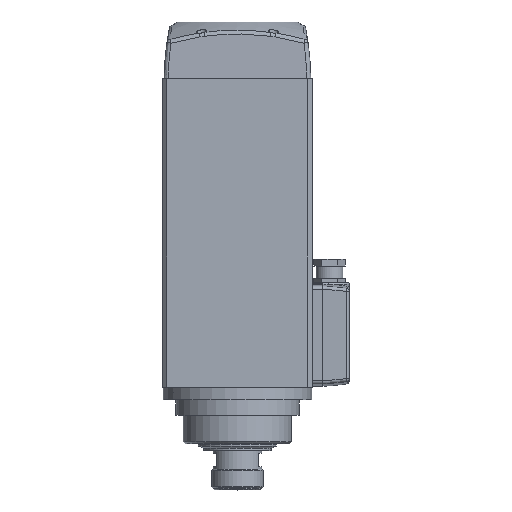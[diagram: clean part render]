
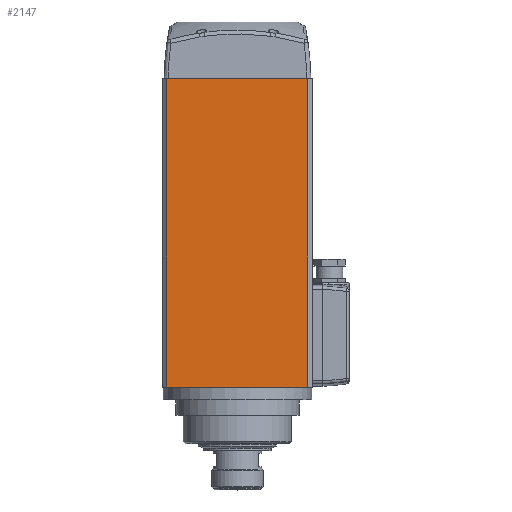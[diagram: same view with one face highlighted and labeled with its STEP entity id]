
A CAD part, top view. The second image highlights one B-rep face of the part: STEP entity #2147.
In plain terms, the highlighted planar face has unit normal (0, 0, 1).
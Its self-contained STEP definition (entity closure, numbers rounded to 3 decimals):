
#2147 = ADVANCED_FACE( '', ( #4596 ), #4597, .T. );
#4596 = FACE_OUTER_BOUND( '', #9696, .T. );
#4597 = PLANE( '', #9697 );
#9696 = EDGE_LOOP( '', ( #17231, #17232, #17233, #17234 ) );
#9697 = AXIS2_PLACEMENT_3D( '', #17235, #17236, #17237 );
#17231 = ORIENTED_EDGE( '', *, *, #23747, .F. );
#17232 = ORIENTED_EDGE( '', *, *, #23242, .T. );
#17233 = ORIENTED_EDGE( '', *, *, #21502, .T. );
#17234 = ORIENTED_EDGE( '', *, *, #23748, .T. );
#17235 = CARTESIAN_POINT( '', ( -68.5, 300., 88.5 ) );
#17236 = DIRECTION( '', ( 0., 0., 1. ) );
#17237 = DIRECTION( '', ( 1., 0., 0. ) );
#21502 = EDGE_CURVE( '', #27106, #27107, #27108, .T. );
#23242 = EDGE_CURVE( '', #29938, #27106, #29939, .T. );
#23747 = EDGE_CURVE( '', #29938, #30625, #30626, .T. );
#23748 = EDGE_CURVE( '', #27107, #30625, #30627, .T. );
#27106 = VERTEX_POINT( '', #32585 );
#27107 = VERTEX_POINT( '', #32586 );
#27108 = LINE( '', #32587, #32588 );
#29938 = VERTEX_POINT( '', #40019 );
#29939 = LINE( '', #40020, #40021 );
#30625 = VERTEX_POINT( '', #42237 );
#30626 = LINE( '', #42238, #42239 );
#30627 = LINE( '', #42240, #42241 );
#32585 = CARTESIAN_POINT( '', ( -68.5, 299.8, 88.5 ) );
#32586 = CARTESIAN_POINT( '', ( -68.5, 0.2, 88.5 ) );
#32587 = CARTESIAN_POINT( '', ( -68.5, 300., 88.5 ) );
#32588 = VECTOR( '', #45740, 1000. );
#40019 = CARTESIAN_POINT( '', ( 68.5, 299.8, 88.5 ) );
#40020 = CARTESIAN_POINT( '', ( -68.5, 299.8, 88.5 ) );
#40021 = VECTOR( '', #48099, 1000. );
#42237 = CARTESIAN_POINT( '', ( 68.5, 0.2, 88.5 ) );
#42238 = CARTESIAN_POINT( '', ( 68.5, 300., 88.5 ) );
#42239 = VECTOR( '', #48764, 1000. );
#42240 = CARTESIAN_POINT( '', ( -68.5, 0.2, 88.5 ) );
#42241 = VECTOR( '', #48765, 1000. );
#45740 = DIRECTION( '', ( 0., -1., 0. ) );
#48099 = DIRECTION( '', ( -1., 0., 0. ) );
#48764 = DIRECTION( '', ( 0., -1., 0. ) );
#48765 = DIRECTION( '', ( 1., 0., 0. ) );
